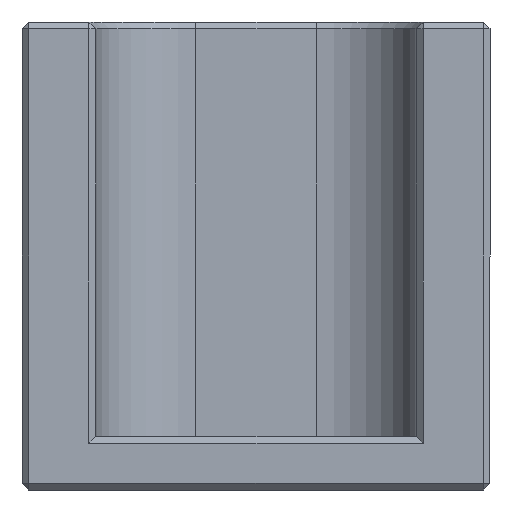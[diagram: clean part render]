
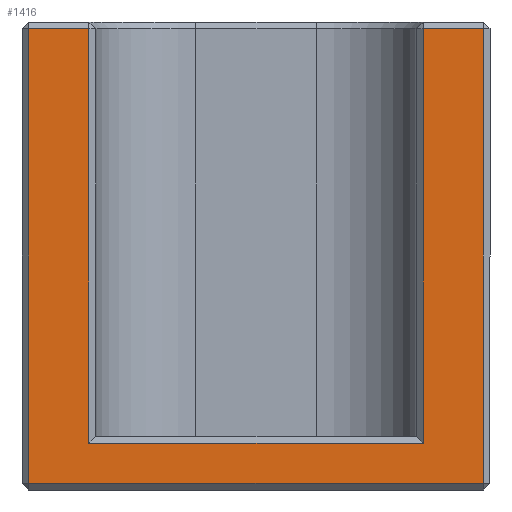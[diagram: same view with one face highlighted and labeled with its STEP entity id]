
A CAD part, left-side view. The second image highlights one B-rep face of the part: STEP entity #1416.
In plain terms, the highlighted planar face has unit normal (-1, 0, 0).
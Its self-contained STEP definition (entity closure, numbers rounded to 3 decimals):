
#50 = CARTESIAN_POINT ( 'NONE',  ( -36.5, 25., -1. ) ) ;
#143 = CARTESIAN_POINT ( 'NONE',  ( -36.5, -34., -1. ) ) ;
#187 = LINE ( 'NONE', #244, #243 ) ;
#190 = VECTOR ( 'NONE', #200, 1000. ) ;
#191 = CARTESIAN_POINT ( 'NONE',  ( -36.5, -34., 0. ) ) ;
#192 = LINE ( 'NONE', #191, #190 ) ;
#196 = DIRECTION ( 'NONE',  ( 0., 1., 0. ) ) ;
#197 = VECTOR ( 'NONE', #196, 1000. ) ;
#198 = CARTESIAN_POINT ( 'NONE',  ( -36.5, 17.5, -69. ) ) ;
#199 = LINE ( 'NONE', #198, #197 ) ;
#200 = DIRECTION ( 'NONE',  ( 0., 0., -1. ) ) ;
#202 = DIRECTION ( 'NONE',  ( 0., 0., 1. ) ) ;
#203 = VECTOR ( 'NONE', #202, 1000. ) ;
#204 = CARTESIAN_POINT ( 'NONE',  ( -36.5, 34., 0. ) ) ;
#205 = LINE ( 'NONE', #204, #203 ) ;
#242 = DIRECTION ( 'NONE',  ( 0., -1., 0. ) ) ;
#243 = VECTOR ( 'NONE', #242, 1000. ) ;
#244 = CARTESIAN_POINT ( 'NONE',  ( -36.5, 17.5, -1. ) ) ;
#245 = CARTESIAN_POINT ( 'NONE',  ( -36.5, 34., -1. ) ) ;
#246 = DIRECTION ( 'NONE',  ( 0., -1., 0. ) ) ;
#247 = VECTOR ( 'NONE', #246, 1000. ) ;
#248 = CARTESIAN_POINT ( 'NONE',  ( -36.5, 17.5, -1. ) ) ;
#249 = LINE ( 'NONE', #248, #247 ) ;
#250 = CARTESIAN_POINT ( 'NONE',  ( -36.5, -34., -69. ) ) ;
#286 = CARTESIAN_POINT ( 'NONE',  ( -36.5, 34., -69. ) ) ;
#355 = DIRECTION ( 'NONE',  ( 0., -1., 0. ) ) ;
#390 = CARTESIAN_POINT ( 'NONE',  ( -36.5, 35., 0. ) ) ;
#391 = AXIS2_PLACEMENT_3D ( 'NONE', #390, #392, #355 ) ;
#392 = DIRECTION ( 'NONE',  ( -1., 0., 0. ) ) ;
#393 = PLANE ( 'NONE',  #391 ) ;
#394 = FACE_OUTER_BOUND ( 'NONE', #1345, .T. ) ;
#702 = CARTESIAN_POINT ( 'NONE',  ( -36.5, -25., -1. ) ) ;
#703 = DIRECTION ( 'NONE',  ( 0., 0., -1. ) ) ;
#704 = VECTOR ( 'NONE', #703, 1000. ) ;
#705 = CARTESIAN_POINT ( 'NONE',  ( -36.5, -25., 0. ) ) ;
#706 = LINE ( 'NONE', #705, #704 ) ;
#707 = CARTESIAN_POINT ( 'NONE',  ( -36.5, -25., -63. ) ) ;
#791 = CARTESIAN_POINT ( 'NONE',  ( -36.5, 25., -63. ) ) ;
#1199 = EDGE_CURVE ( 'NONE', #1621, #1629, #1931, .T. ) ;
#1215 = EDGE_CURVE ( 'NONE', #1629, #1238, #1947, .T. ) ;
#1238 = VERTEX_POINT ( 'NONE', #50 ) ;
#1263 = VERTEX_POINT ( 'NONE', #143 ) ;
#1334 = ORIENTED_EDGE ( 'NONE', *, *, #1335, .F. ) ;
#1335 = EDGE_CURVE ( 'NONE', #1263, #1373, #192, .T. ) ;
#1336 = ORIENTED_EDGE ( 'NONE', *, *, #1337, .F. ) ;
#1337 = EDGE_CURVE ( 'NONE', #1624, #1263, #187, .T. ) ;
#1338 = ORIENTED_EDGE ( 'NONE', *, *, #1623, .T. ) ;
#1345 = EDGE_LOOP ( 'NONE', ( #1348, #1349, #1352, #1354, #1334, #1336, #1338, #1359 ) ) ;
#1348 = ORIENTED_EDGE ( 'NONE', *, *, #1215, .T. ) ;
#1349 = ORIENTED_EDGE ( 'NONE', *, *, #1350, .F. ) ;
#1350 = EDGE_CURVE ( 'NONE', #1351, #1238, #249, .T. ) ;
#1351 = VERTEX_POINT ( 'NONE', #245 ) ;
#1352 = ORIENTED_EDGE ( 'NONE', *, *, #1353, .F. ) ;
#1353 = EDGE_CURVE ( 'NONE', #1410, #1351, #205, .T. ) ;
#1354 = ORIENTED_EDGE ( 'NONE', *, *, #1355, .F. ) ;
#1355 = EDGE_CURVE ( 'NONE', #1373, #1410, #199, .T. ) ;
#1359 = ORIENTED_EDGE ( 'NONE', *, *, #1199, .T. ) ;
#1373 = VERTEX_POINT ( 'NONE', #250 ) ;
#1410 = VERTEX_POINT ( 'NONE', #286 ) ;
#1416 = ADVANCED_FACE ( 'NONE', ( #394 ), #393, .T. ) ;
#1621 = VERTEX_POINT ( 'NONE', #707 ) ;
#1623 = EDGE_CURVE ( 'NONE', #1624, #1621, #706, .T. ) ;
#1624 = VERTEX_POINT ( 'NONE', #702 ) ;
#1629 = VERTEX_POINT ( 'NONE', #791 ) ;
#1857 = VECTOR ( 'NONE', #1873, 1000. ) ;
#1873 = DIRECTION ( 'NONE',  ( 0., 0., 1. ) ) ;
#1931 = LINE ( 'NONE', #1939, #1938 ) ;
#1935 = DIRECTION ( 'NONE',  ( 0., 1., 0. ) ) ;
#1938 = VECTOR ( 'NONE', #1935, 1000. ) ;
#1939 = CARTESIAN_POINT ( 'NONE',  ( -36.5, 35., -63. ) ) ;
#1946 = CARTESIAN_POINT ( 'NONE',  ( -36.5, 25., 0. ) ) ;
#1947 = LINE ( 'NONE', #1946, #1857 ) ;
